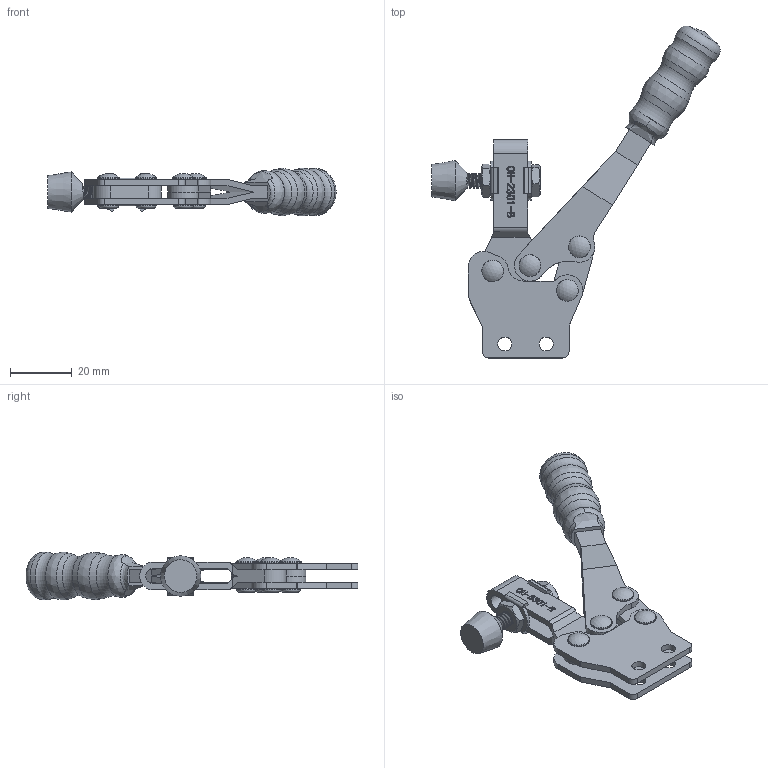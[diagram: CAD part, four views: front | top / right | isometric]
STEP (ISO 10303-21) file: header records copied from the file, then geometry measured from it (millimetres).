
FILE_DESCRIPTION(/* description */ ('STEP AP203'),/* implementation_level */ '2;1');
FILE_NAME(/* name */ 'E:\STRONA\Horizontal toggle clamp\CH-2301-B\CH-2301-B_OTWARTY.stp',/* time_stamp */ '2019-01-14T10:39:43+01:00',/* author */ ('Admin'),/* organization */ ('Î¢ÈíÖÐ¹ú'),/* preprocessor_version */ 'ST-DEVELOPER v17.2',/* originating_system */ 'Autodesk Inventor 2019',/* authorisation */ '');
FILE_SCHEMA (('AUTOMOTIVE_DESIGN { 1 0 10303 214 3 1 1 }'));
Length unit declared in the file: millimetre
Products named in the file (10): CH-2301-B_OTWARTY; CH-2301-B-02___; FW100____1; CH-2301-B-01___; CH-2300-06___; CH-FC-10138____1; CH-2300-05____1; CH-2300-03____1; CH-2300-04____1; 10138-02____1
Assembly tree (14 placements, depth 2):
  CH-2301-B_OTWARTY
    CH-2301-B-02___
    CH-2300-05____1  x4
    FW100____1  x2
    CH-2301-B-01___
    CH-2300-06___
    CH-FC-10138____1
    CH-2300-03____1
    10138-02____1  x2
    CH-2300-04____1
Bounding box: 93.02 x 107.12 x 15.47 mm (x, y, z)
Volume: 17511.3 mm3; surface area: 17508.2 mm2
Topology: 16 solids, 17 shells, 631 faces, 1773 edges, 1208 vertices
Faces by surface type: plane 269, bspline 201, cylinder 116, torus 24, cone 17, sphere 4
Full cylindrical faces by diameter (mm): 1.6 x1, 2.4 x1, 2.9 x4, 3.8 x4, 3.9 x4, 3.98 x4, 4 x10, 4.5 x4, 4.8 x19, 4.9 x2, 6.4 x4, 7 x4, 9.526 x1, 15.323 x1
Entity records: 35601 total; most frequent: CARTESIAN_POINT 21949, ORIENTED_EDGE 3138, DIRECTION 2107, EDGE_CURVE 1569, VERTEX_POINT 1065, LINE 849, VECTOR 849, AXIS2_PLACEMENT_3D 629
